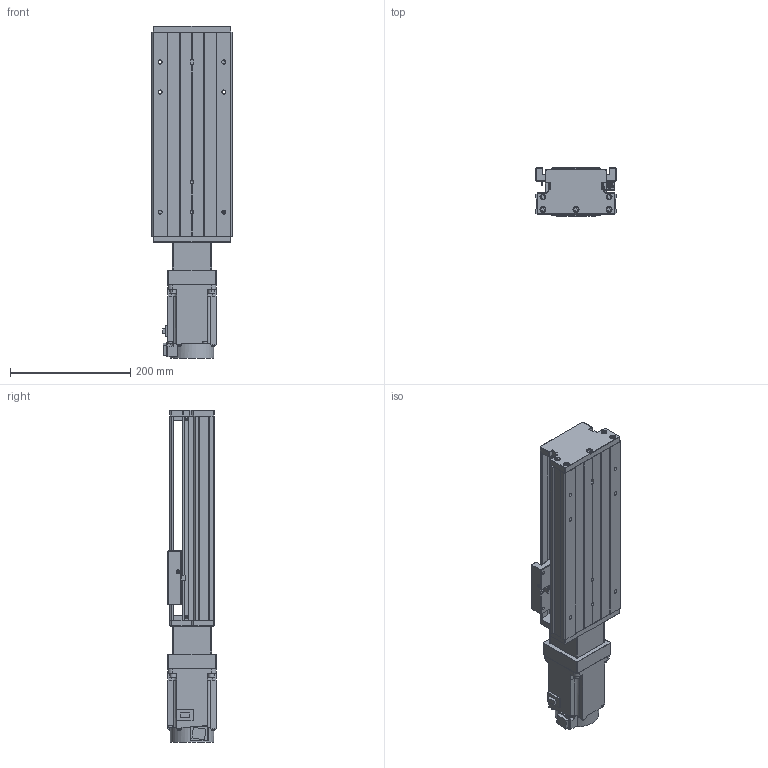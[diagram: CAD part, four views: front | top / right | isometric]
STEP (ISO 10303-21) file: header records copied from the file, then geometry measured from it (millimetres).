
FILE_DESCRIPTION (( 'STEP AP203' ), '1' );
FILE_NAME ('KTH130-200-BC-M75-C4.step', '2023-06-30T04:16:46', ( '微软用户' ), ( '微软中国' ), 'SwSTEP 2.0', 'SolidWorks 2020', '' );
FILE_SCHEMA (( 'CONFIG_CONTROL_DESIGN' ));
Length unit declared in the file: millimetre
Products named in the file (19): GBT77-2000 M3×3; KTH130-200-BC-M75-C4; GBT70.1 M5℅16; す晦芛蹟隊 M3℅5; GBT 70.2-M3¡Á5_M3¡Á6; GBT 70.3-M3℅8; GTH14-001_200; CTHA60-017; CTHA86-006-1_M75; KTH130-002_KTH130-002; EE_SX911P_R; CTHA86-013; KTH130-004; CTHA60-016; CTHA86-027-1; KTH130-005; GBT 70.1-M3℅5; hg-kn73j_-s100; GB1155-6X6
Assembly tree (52 placements, depth 2):
  KTH130-200-BC-M75-C4
    GTH14-001_200
    KTH130-002_KTH130-002
    KTH130-004
    KTH130-005
    GB1155-6X6  x2
    GBT70.1 M5℅16  x10
    GBT 70.2-M3¡Á5_M3¡Á6  x4
    CTHA60-017  x3
    EE_SX911P_R  x3
    CTHA60-016  x2
    GBT 70.1-M3℅5  x6
    GBT77-2000 M3×3  x6
    す晦芛蹟隊 M3℅5  x2
    GBT 70.3-M3℅8  x6
    CTHA86-006-1_M75
    CTHA86-013
    CTHA86-027-1
    hg-kn73j_-s100
Bounding box: 135 x 80.44 x 553.2 mm (x, y, z)
Volume: 3112894.8 mm3; surface area: 470382.9 mm2
Topology: 55 solids, 55 shells, 2240 faces, 5384 edges, 3351 vertices
Faces by surface type: plane 1238, cylinder 606, cone 280, torus 104, sphere 12
Entity records: 39538 total; most frequent: CARTESIAN_POINT 6531, DIRECTION 6491, ORIENTED_EDGE 6052, EDGE_CURVE 3026, AXIS2_PLACEMENT_3D 2247, VECTOR 1997, LINE 1997, VERTEX_POINT 1923
